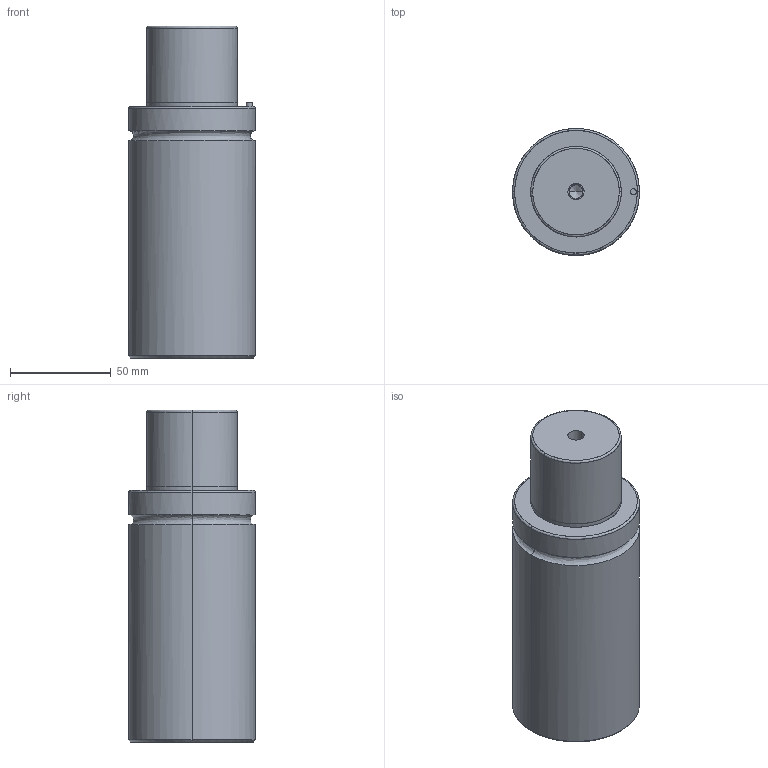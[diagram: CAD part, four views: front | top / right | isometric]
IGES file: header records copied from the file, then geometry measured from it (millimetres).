
Global section: file name: E:\UnigraphicsGraphicData\MISUMI_PRESS-PARTS\IGES\3d_gsm63-38_03952_r00.igs; native system: NX V5.0; preprocessor: UGS NX IGES V5.0; author: MISUMI; date: 20110105.160818; units: millimetre
Bounding box: 63 x 62.95 x 165 mm (x, y, z)
Surface area: 38315.7 mm2 (no closed solid volume)
Topology: 0 solids, 0 shells, 50 faces, 344 edges, 336 vertices
Faces by surface type: bspline 50
